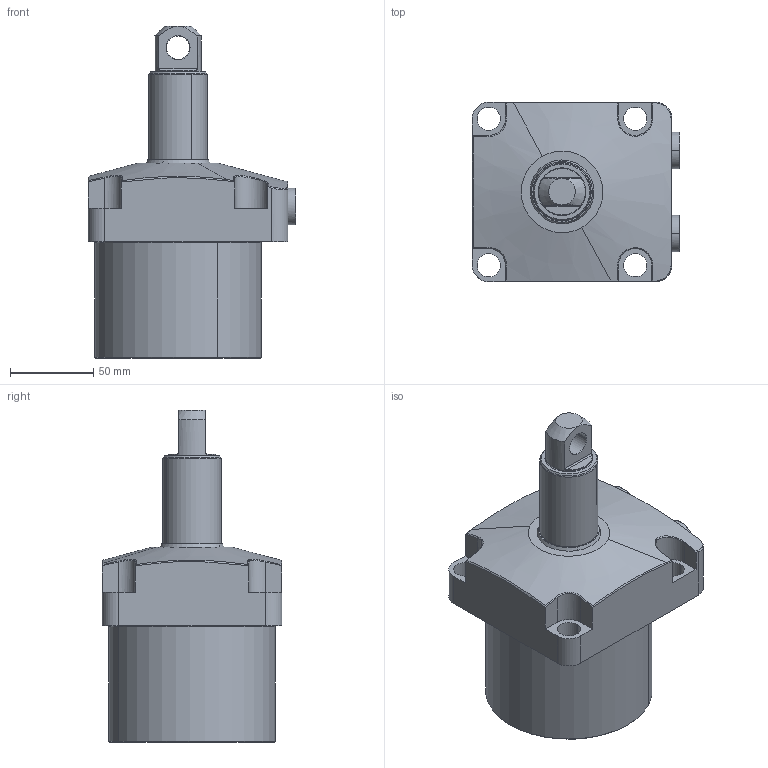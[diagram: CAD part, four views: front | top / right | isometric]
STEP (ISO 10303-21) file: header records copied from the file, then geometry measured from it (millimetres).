
FILE_DESCRIPTION(('CATIA V5 STEP Exchange'),'2;1');
FILE_NAME('C:\Users\kong\Desktop\GCD-25-50X.stp','2014-11-04T06:48:29+00:00',('none'),('none'),'CATIA Version 5 Release 17 (IN-10)','CATIA V5 STEP AP203','none');
FILE_SCHEMA(('CONFIG_CONTROL_DESIGN'));
Length unit declared in the file: millimetre
Products named in the file (1): Product2
Assembly tree (4 placements, depth 2):
  Product2
    #56
    #5379  x2
    #6055
Bounding box: 124.81 x 108 x 199.5 mm (x, y, z)
Volume: 1062467.7 mm3; surface area: 88941.5 mm2
Topology: 4 solids, 4 shells, 169 faces, 416 edges, 272 vertices
Faces by surface type: plane 55, cylinder 52, cone 30, bspline 22, torus 10
Entity records: 6877 total; most frequent: CARTESIAN_POINT 3651, ORIENTED_EDGE 740, DIRECTION 449, EDGE_CURVE 370, VERTEX_POINT 242, AXIS2_PLACEMENT_3D 223, EDGE_LOOP 170, ADVANCED_FACE 147
